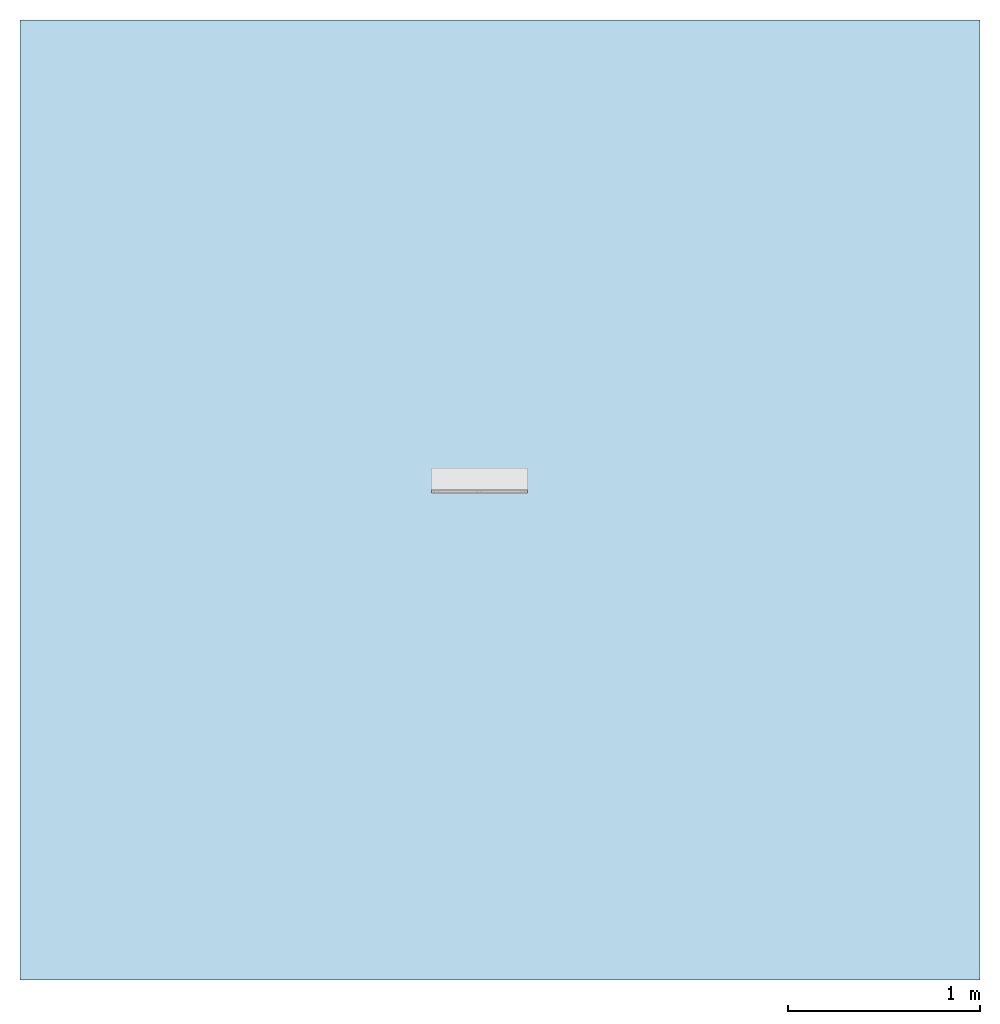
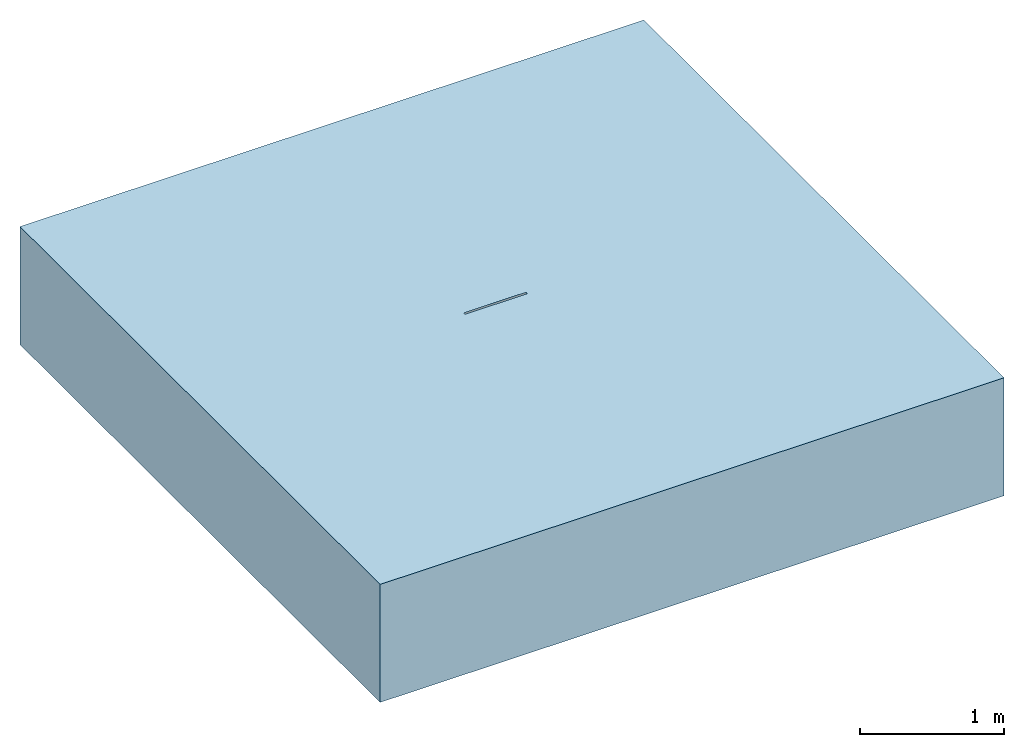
# One storey, part 1 of 2: 1 slab, 2 openings.
"""IFC2X3 building model written with IfcOpenShell, lengths in millimetres."""

from ifc_helpers import new_model, entity, si_unit, converted_unit, direction, frame, frame_2d, origin, place, context, subcontext, project, spatial, polyline, rectangle, outline, extrude, material, layer, layer_set, layer_usage, element, save


model = new_model("IFC2X3")

# Units and contexts
model_context = context("Model", 3, precision=1e-06, world=origin(), true_north=direction((2.0, 6.12303176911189e-17, 1.0)))
context_of_model = context(None, 3, precision=1e-06, world=origin(), true_north=direction((2.0, 6.12303176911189e-17, 1.0)))
body_context = subcontext(model_context, "Body", "Model", "MODEL_VIEW")
ifc_project = project(units=[si_unit("LENGTHUNIT", "METRE", prefix="MILLI"), si_unit("AREAUNIT", "SQUARE_METRE", prefix="MILLI"), si_unit("VOLUMEUNIT", "CUBIC_METRE", prefix="MILLI"), converted_unit("PLANEANGLEUNIT", "DEGREE", entity("IfcRatioMeasure", 0.0174532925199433), si_unit("PLANEANGLEUNIT", "RADIAN"), dimensions=[0, 0, 0, 0, 0, 0, 0]), si_unit("TIMEUNIT", "SECOND")], contexts=[model_context, context_of_model])

# Site, building, storey
site_placement = place(None, origin())
site = spatial("IfcSite", under=ifc_project, at=site_placement, Name="Default", CompositionType="ELEMENT")
building_placement = place(site_placement, origin())
building = spatial("IfcBuilding", under=site, at=building_placement, CompositionType="ELEMENT")
storey_placement = place(building_placement, origin())
storey = spatial("IfcBuildingStorey", under=building, at=storey_placement, Name="Level 1", CompositionType="ELEMENT", Elevation=0.0)

# Slab, openings
ifc_material = material(Name="Earth")
ifc_layer = layer(ifc_material, 1000.0)
ifc_layer_set = layer_set([ifc_layer], Name="Floor:Generic Floor - 1000mm")
ifc_layer_usage = layer_usage(ifc_layer_set, "AXIS3", "POSITIVE", 0.0)
slab_placement = place(storey_placement, origin())
slab = element("IfcSlab", 1, at=slab_placement, inside=storey, material=ifc_layer_usage, Name="Floor:Generic Floor - 1000mm", ObjectType="Floor:Generic Floor - 1000mm", PredefinedType="FLOOR", context=body_context, shape_type="SweptSolid", body=[
    extrude(rectangle(XDim=5000.0, YDim=5000.0, at=frame_2d((0.0, 0.0), x_axis=(0.0, -1.0))), frame((0.0, 0.0, 0.0), z_axis=(0.0, 0.0, -1.0), x_axis=(-1.0, 0.0, 0.0)), (0.0, 0.0, 1.0), 1000.0),
])
opening_1_placement = place(slab_placement, origin())
element("IfcOpeningElement", 2, at=opening_1_placement, cuts=slab, ObjectType="Recess", context=body_context, shape_type="SweptSolid", body=[
    extrude(outline(polyline([(-63.2499999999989, -250.0), (63.2499999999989, -250.0), (63.2499999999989, 250.0), (-63.2499999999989, 250.0), (-63.2499999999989, -250.0)]), holes=[polyline([(-53.2499999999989, -244.0), (-53.2499999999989, 244.0), (45.2499999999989, 244.0), (45.2499999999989, -244.0), (-53.2499999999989, -244.0)])]), frame((-106.343413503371, 99.921892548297, -6605.0), z_axis=(0.0, 0.0, 1.0), x_axis=(0.0, -1.0, 0.0)), (0.0, 0.0, 1.0), 105.0),
])
opening_2_placement = place(slab_placement, origin())
element("IfcOpeningElement", 3, at=opening_2_placement, cuts=slab, ObjectType="Recess", context=body_context, shape_type="SweptSolid", body=[
    extrude(outline(polyline([(-40.3749999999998, -251.250000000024), (94.6249999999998, -251.250000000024), (94.6249999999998, 48.7499999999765), (-18.1249999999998, 48.7499999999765), (-18.1249999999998, 153.750000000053), (-36.1250000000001, 153.750000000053), (-36.1250000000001, 48.7500000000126), (-40.3749999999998, 48.7499999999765), (-40.3749999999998, -251.250000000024)])), frame((-356.343413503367, 72.7968925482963, -153.750000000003), z_axis=(1.0, 0.0, 0.0), x_axis=(0.0, 1.0, 0.0)), (0.0, 0.0, 1.0), 500.0),
])

save(model, "model.ifc")
